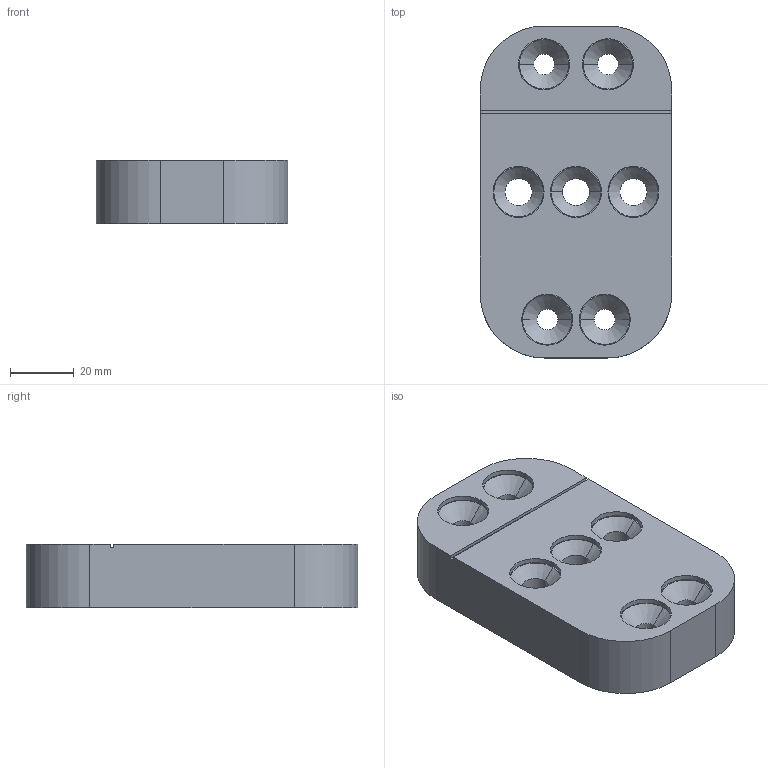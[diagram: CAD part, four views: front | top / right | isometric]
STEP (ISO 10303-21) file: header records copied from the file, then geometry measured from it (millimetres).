
FILE_DESCRIPTION (( 'STEP AP203' ), '1' );
FILE_NAME ('OV60.STEP', '2021-02-11T14:28:32', ( '' ), ( '' ), 'SwSTEP 2.0', 'SolidWorks 2013', '' );
FILE_SCHEMA (( 'CONFIG_CONTROL_DESIGN' ));
Length unit declared in the file: millimetre
Products named in the file (1): OV60
Bounding box: 60 x 104 x 20 mm (x, y, z)
Volume: 108322.6 mm3; surface area: 20473.2 mm2
Topology: 1 solids, 1 shells, 63 faces, 148 edges, 94 vertices
Faces by surface type: cylinder 32, plane 17, cone 14
Entity records: 1935 total; most frequent: DIRECTION 354, CARTESIAN_POINT 306, ORIENTED_EDGE 296, EDGE_CURVE 148, AXIS2_PLACEMENT_3D 142, VERTEX_POINT 94, EDGE_LOOP 84, CIRCLE 78
